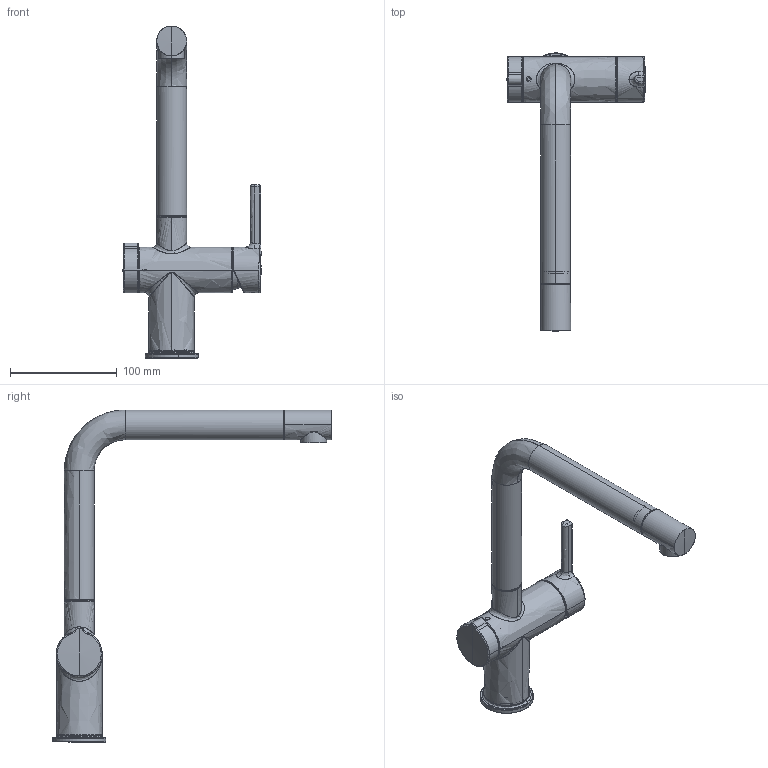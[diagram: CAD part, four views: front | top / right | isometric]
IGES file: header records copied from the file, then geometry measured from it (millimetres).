
Global section: file name: F:\_CONVERSIONE_CAD_2024_2025\_Urgenza Michele\3D001_Taps_Active-Twist_Spout_Decor\3D001_Taps_Active-Twist_Spout.igs; native system: Rhinoceros ( Nov 12 2024 ); preprocessor: Trout Lake IGES 012 Nov 12 2024; date: 250224.094931; units: millimetre
Bounding box: 129.56 x 261.49 x 311.5 mm (x, y, z)
Surface area: 145835.6 mm2 (no closed solid volume)
Topology: 0 solids, 0 shells, 5875 faces, 36176 edges, 36144 vertices
Faces by surface type: bspline 5875
